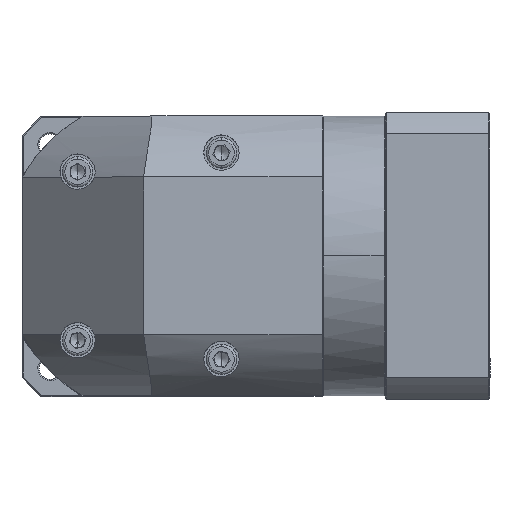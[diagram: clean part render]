
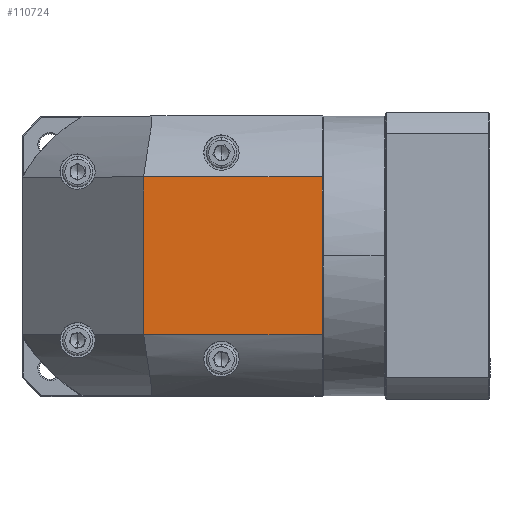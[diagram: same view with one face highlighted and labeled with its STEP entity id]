
A CAD part, top view. The second image highlights one B-rep face of the part: STEP entity #110724.
In plain terms, the highlighted planar face has unit normal (0, 0, 1).
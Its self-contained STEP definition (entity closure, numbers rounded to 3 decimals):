
#4827 = EDGE_CURVE ( 'NONE', #24001, #14777, #99575, .T. ) ;
#8934 = VERTEX_POINT ( 'NONE', #105582 ) ;
#14604 = CARTESIAN_POINT ( 'NONE',  ( -20.976, 77.463, 43.763 ) ) ;
#14777 = VERTEX_POINT ( 'NONE', #109410 ) ;
#19563 = CARTESIAN_POINT ( 'NONE',  ( 29.024, 77.463, 43.763 ) ) ;
#24001 = VERTEX_POINT ( 'NONE', #72363 ) ;
#24954 = DIRECTION ( 'NONE',  ( 0., -1., 0. ) ) ;
#26632 = DIRECTION ( 'NONE',  ( 1., 0., 0. ) ) ;
#27735 = ORIENTED_EDGE ( 'NONE', *, *, #37398, .F. ) ;
#29805 = FACE_OUTER_BOUND ( 'NONE', #35279, .T. ) ;
#35279 = EDGE_LOOP ( 'NONE', ( #27735, #125647, #127569, #77484 ) ) ;
#36544 = CARTESIAN_POINT ( 'NONE',  ( 29.024, 102.563, 43.763 ) ) ;
#37398 = EDGE_CURVE ( 'NONE', #70959, #24001, #57254, .T. ) ;
#40251 = CARTESIAN_POINT ( 'NONE',  ( -20.976, 12.664, 43.763 ) ) ;
#49631 = VECTOR ( 'NONE', #102434, 1000. ) ;
#57254 = LINE ( 'NONE', #14604, #88861 ) ;
#70959 = VERTEX_POINT ( 'NONE', #19563 ) ;
#71417 = AXIS2_PLACEMENT_3D ( 'NONE', #78860, #100674, #24954 ) ;
#72363 = CARTESIAN_POINT ( 'NONE',  ( 102.424, 77.463, 43.763 ) ) ;
#77484 = ORIENTED_EDGE ( 'NONE', *, *, #4827, .F. ) ;
#78860 = CARTESIAN_POINT ( 'NONE',  ( 36.524, 45.063, 43.763 ) ) ;
#82592 = DIRECTION ( 'NONE',  ( -1., 0., 0. ) ) ;
#88599 = PLANE ( 'NONE',  #71417 ) ;
#88861 = VECTOR ( 'NONE', #26632, 1000. ) ;
#99575 = LINE ( 'NONE', #113176, #49631 ) ;
#100674 = DIRECTION ( 'NONE',  ( 0., 0., -1. ) ) ;
#102434 = DIRECTION ( 'NONE',  ( 0., -1., 0. ) ) ;
#102967 = VECTOR ( 'NONE', #82592, 1000. ) ;
#105582 = CARTESIAN_POINT ( 'NONE',  ( 29.024, 12.664, 43.763 ) ) ;
#109410 = CARTESIAN_POINT ( 'NONE',  ( 102.424, 12.664, 43.763 ) ) ;
#110724 = ADVANCED_FACE ( 'NONE', ( #29805 ), #88599, .F. ) ;
#113176 = CARTESIAN_POINT ( 'NONE',  ( 102.424, 102.563, 43.763 ) ) ;
#113676 = VECTOR ( 'NONE', #132293, 1000. ) ;
#114403 = EDGE_CURVE ( 'NONE', #8934, #70959, #126840, .T. ) ;
#123312 = EDGE_CURVE ( 'NONE', #14777, #8934, #129662, .T. ) ;
#125647 = ORIENTED_EDGE ( 'NONE', *, *, #114403, .F. ) ;
#126840 = LINE ( 'NONE', #36544, #113676 ) ;
#127569 = ORIENTED_EDGE ( 'NONE', *, *, #123312, .F. ) ;
#129662 = LINE ( 'NONE', #40251, #102967 ) ;
#132293 = DIRECTION ( 'NONE',  ( 0., 1., 0. ) ) ;
